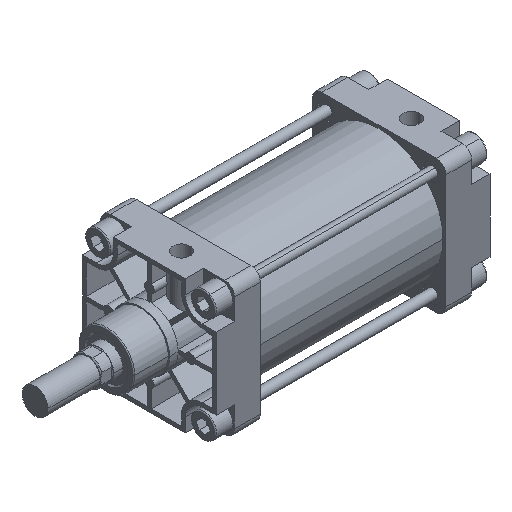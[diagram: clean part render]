
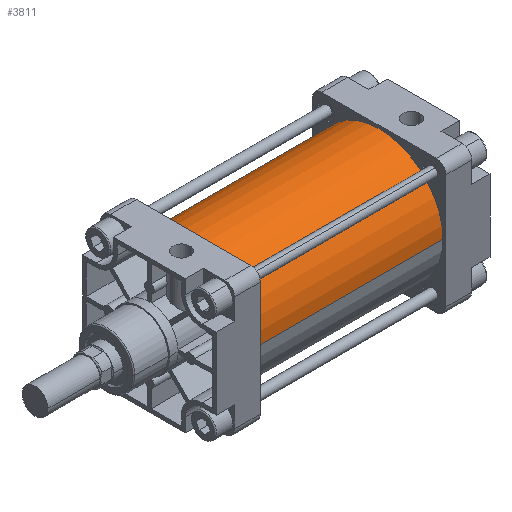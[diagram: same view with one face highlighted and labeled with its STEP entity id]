
A CAD part, isometric view. The second image highlights one B-rep face of the part: STEP entity #3811.
In plain terms, the highlighted cylindrical face has radius 66.5 mm (diameter 133 mm), a partial arc.
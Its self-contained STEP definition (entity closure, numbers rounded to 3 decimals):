
#3206=CARTESIAN_POINT('Vertex',(193.,-66.5,0.)) ;
#3208=CARTESIAN_POINT('Vertex',(193.,66.5,0.)) ;
#3211=CARTESIAN_POINT('Axis2P3D Location',(193.,0.,0.)) ;
#3781=CARTESIAN_POINT('Axis2P3D Location',(96.5,0.,0.)) ;
#3786=CARTESIAN_POINT('Line Origine',(96.5,66.5,0.)) ;
#3790=CARTESIAN_POINT('Vertex',(0.,66.5,0.)) ;
#3793=CARTESIAN_POINT('Axis2P3D Location',(0.,0.,0.)) ;
#3797=CARTESIAN_POINT('Vertex',(0.,-66.5,0.)) ;
#3800=CARTESIAN_POINT('Line Origine',(96.5,-66.5,0.)) ;
#3212=DIRECTION('Axis2P3D Direction',(1.,0.,0.)) ;
#3782=DIRECTION('Axis2P3D Direction',(1.,0.,0.)) ;
#3783=DIRECTION('Axis2P3D XDirection',(0.,1.,0.)) ;
#3787=DIRECTION('Vector Direction',(1.,0.,0.)) ;
#3794=DIRECTION('Axis2P3D Direction',(1.,0.,0.)) ;
#3801=DIRECTION('Vector Direction',(1.,0.,0.)) ;
#3213=AXIS2_PLACEMENT_3D('Circle Axis2P3D',#3211,#3212,$) ;
#3784=AXIS2_PLACEMENT_3D('Cylinder Axis2P3D',#3781,#3782,#3783) ;
#3795=AXIS2_PLACEMENT_3D('Circle Axis2P3D',#3793,#3794,$) ;
#3806=ORIENTED_EDGE('',*,*,#3792,.F.) ;
#3807=ORIENTED_EDGE('',*,*,#3799,.T.) ;
#3808=ORIENTED_EDGE('',*,*,#3804,.T.) ;
#3809=ORIENTED_EDGE('',*,*,#3215,.F.) ;
#3788=VECTOR('Line Direction',#3787,1.) ;
#3802=VECTOR('Line Direction',#3801,1.) ;
#3811=ADVANCED_FACE('PartBody',(#3810),#3785,.T.) ;
#3214=CIRCLE('generated circle',#3213,66.5) ;
#3796=CIRCLE('generated circle',#3795,66.5) ;
#3785=CYLINDRICAL_SURFACE('generated cylinder',#3784,66.5) ;
#3215=EDGE_CURVE('',#3209,#3207,#3214,.T.) ;
#3792=EDGE_CURVE('',#3791,#3209,#3789,.T.) ;
#3799=EDGE_CURVE('',#3791,#3798,#3796,.T.) ;
#3804=EDGE_CURVE('',#3798,#3207,#3803,.T.) ;
#3805=EDGE_LOOP('',(#3806,#3807,#3808,#3809)) ;
#3810=FACE_OUTER_BOUND('',#3805,.T.) ;
#3789=LINE('Line',#3786,#3788) ;
#3803=LINE('Line',#3800,#3802) ;
#3207=VERTEX_POINT('',#3206) ;
#3209=VERTEX_POINT('',#3208) ;
#3791=VERTEX_POINT('',#3790) ;
#3798=VERTEX_POINT('',#3797) ;
